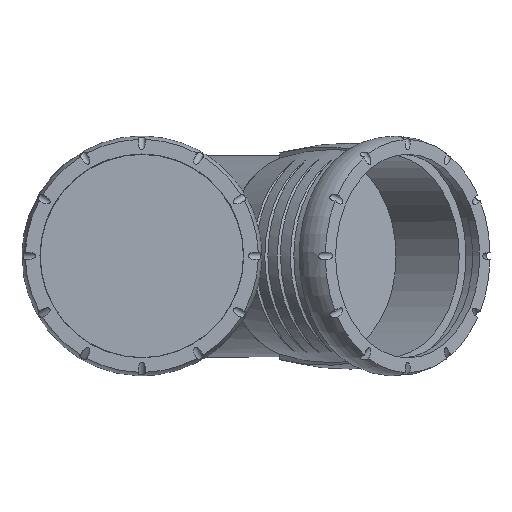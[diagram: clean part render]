
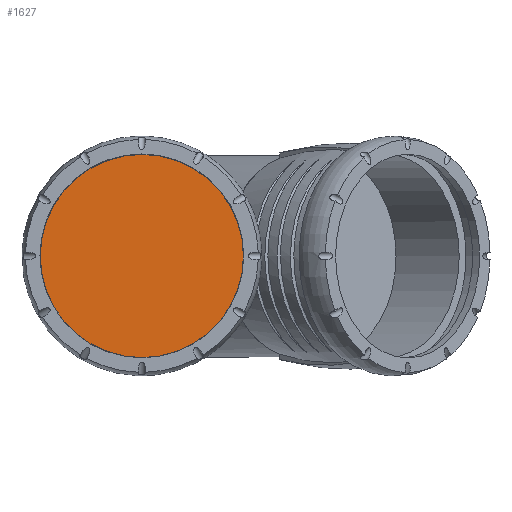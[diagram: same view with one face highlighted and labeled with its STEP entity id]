
A CAD part, top view. The second image highlights one B-rep face of the part: STEP entity #1627.
In plain terms, the highlighted planar face has unit normal (0, 0, 1).
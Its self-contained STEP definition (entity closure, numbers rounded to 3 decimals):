
#220=PLANE('',#1765);
#299=FACE_OUTER_BOUND('',#408,.T.);
#408=EDGE_LOOP('',(#1050));
#547=CIRCLE('',#1766,55.5);
#624=VERTEX_POINT('',#2338);
#799=EDGE_CURVE('',#624,#624,#547,.T.);
#1050=ORIENTED_EDGE('',*,*,#799,.T.);
#1627=ADVANCED_FACE('',(#299),#220,.T.);
#1765=AXIS2_PLACEMENT_3D('',#2337,#1975,#1976);
#1766=AXIS2_PLACEMENT_3D('',#2339,#1977,#1978);
#1975=DIRECTION('center_axis',(0.,0.,
1.));
#1976=DIRECTION('ref_axis',(0.,1.,0.));
#1977=DIRECTION('center_axis',(0.,0.,
1.));
#1978=DIRECTION('ref_axis',(0.,1.,0.));
#2337=CARTESIAN_POINT('Origin',(0.,0.,
236.72));
#2338=CARTESIAN_POINT('',(-55.5,0.,236.72));
#2339=CARTESIAN_POINT('Origin',(0.,0.,
236.72));
